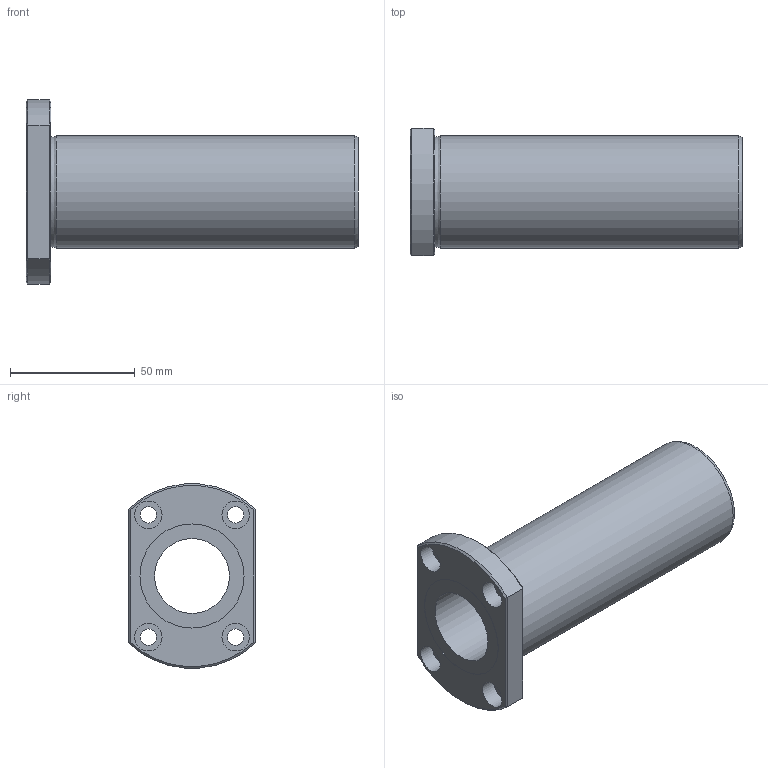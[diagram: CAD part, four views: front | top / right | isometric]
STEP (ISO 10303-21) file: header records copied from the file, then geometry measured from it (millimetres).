
FILE_DESCRIPTION((''),'2;1');
FILE_NAME('D:\製品 (図面)\カタログ用3D\メンテナンスフリー関連\STEP形式\LFDT-MF\LFDT30MF.stp','2010-06-01T15:51:27',('Tsuchiya'),(''),'Autodesk Inventor 10','Autodesk Inventor 10','');
FILE_SCHEMA(('AUTOMOTIVE_DESIGN { 1 0 10303 214 1 1 1 1 }'));
Length unit declared in the file: millimetre
Products named in the file (1): LFDT30MF
Bounding box: 133 x 51 x 73.74 mm (x, y, z)
Volume: 132739.5 mm3; surface area: 38332.6 mm2
Topology: 1 solids, 1 shells, 35 faces, 68 edges, 42 vertices
Faces by surface type: plane 15, cylinder 14, cone 4, torus 1, bspline 1
Full cylindrical faces by diameter (mm): 6.6 x4, 11 x4, 30 x1, 41.7 x2, 45 x1
Entity records: 935 total; most frequent: CARTESIAN_POINT 218, DIRECTION 150, ORIENTED_EDGE 108, AXIS2_PLACEMENT_3D 69, EDGE_LOOP 66, EDGE_CURVE 54, VERTEX_POINT 42, FACE_OUTER_BOUND 35
